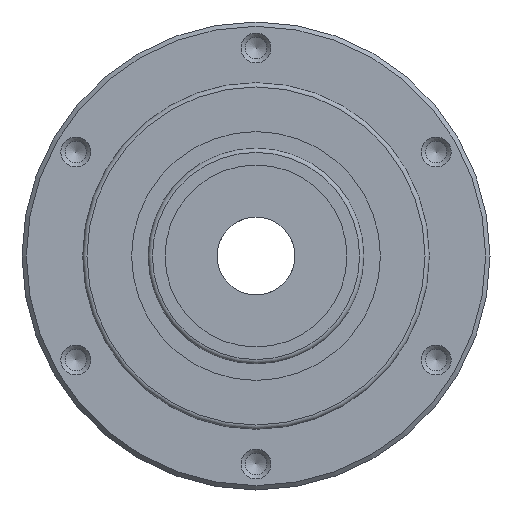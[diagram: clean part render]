
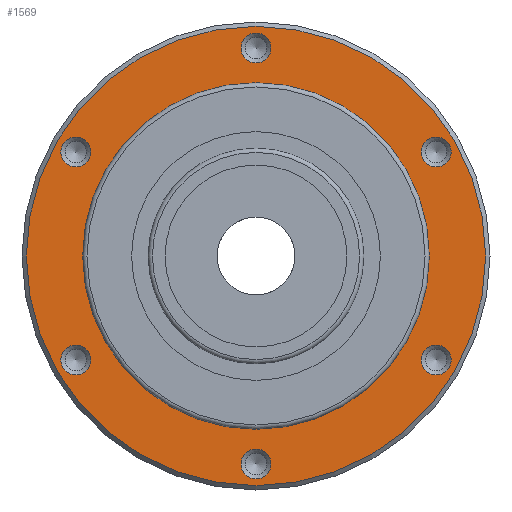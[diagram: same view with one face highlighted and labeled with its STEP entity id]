
A CAD part, left-side view. The second image highlights one B-rep face of the part: STEP entity #1569.
In plain terms, the highlighted planar face has unit normal (-1, 0, 0).
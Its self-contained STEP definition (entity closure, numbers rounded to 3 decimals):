
#108=PLANE('',#1687);
#166=CIRCLE('',#1686,40.);
#167=CIRCLE('',#1688,3.459);
#168=CIRCLE('',#1689,3.459);
#169=CIRCLE('',#1690,3.459);
#170=CIRCLE('',#1691,3.459);
#171=CIRCLE('',#1692,3.459);
#172=CIRCLE('',#1693,3.459);
#173=CIRCLE('',#1694,53.);
#270=ORIENTED_EDGE('',*,*,#482,.T.);
#271=ORIENTED_EDGE('',*,*,#483,.T.);
#272=ORIENTED_EDGE('',*,*,#484,.T.);
#273=ORIENTED_EDGE('',*,*,#485,.T.);
#274=ORIENTED_EDGE('',*,*,#486,.T.);
#275=ORIENTED_EDGE('',*,*,#487,.T.);
#276=ORIENTED_EDGE('',*,*,#488,.T.);
#277=ORIENTED_EDGE('',*,*,#481,.F.);
#481=EDGE_CURVE('',#587,#587,#166,.T.);
#482=EDGE_CURVE('',#588,#588,#167,.T.);
#483=EDGE_CURVE('',#589,#589,#168,.T.);
#484=EDGE_CURVE('',#590,#590,#169,.T.);
#485=EDGE_CURVE('',#591,#591,#170,.T.);
#486=EDGE_CURVE('',#592,#592,#171,.T.);
#487=EDGE_CURVE('',#593,#593,#172,.T.);
#488=EDGE_CURVE('',#594,#594,#173,.T.);
#587=VERTEX_POINT('',#2316);
#588=VERTEX_POINT('',#2319);
#589=VERTEX_POINT('',#2321);
#590=VERTEX_POINT('',#2323);
#591=VERTEX_POINT('',#2325);
#592=VERTEX_POINT('',#2327);
#593=VERTEX_POINT('',#2329);
#594=VERTEX_POINT('',#2331);
#695=EDGE_LOOP('',(#270));
#696=EDGE_LOOP('',(#271));
#697=EDGE_LOOP('',(#272));
#698=EDGE_LOOP('',(#273));
#699=EDGE_LOOP('',(#274));
#700=EDGE_LOOP('',(#275));
#701=EDGE_LOOP('',(#276));
#702=EDGE_LOOP('',(#277));
#839=FACE_BOUND('',#695,.T.);
#840=FACE_BOUND('',#696,.T.);
#841=FACE_BOUND('',#697,.T.);
#842=FACE_BOUND('',#698,.T.);
#843=FACE_BOUND('',#699,.T.);
#844=FACE_BOUND('',#700,.T.);
#845=FACE_BOUND('',#701,.T.);
#846=FACE_BOUND('',#702,.T.);
#1569=ADVANCED_FACE('',(#839,#840,#841,#842,#843,#844,#845,#846),#108,.T.);
#1686=AXIS2_PLACEMENT_3D('',#2315,#1893,#1894);
#1687=AXIS2_PLACEMENT_3D('',#2317,#1895,#1896);
#1688=AXIS2_PLACEMENT_3D('',#2318,#1897,#1898);
#1689=AXIS2_PLACEMENT_3D('',#2320,#1899,#1900);
#1690=AXIS2_PLACEMENT_3D('',#2322,#1901,#1902);
#1691=AXIS2_PLACEMENT_3D('',#2324,#1903,#1904);
#1692=AXIS2_PLACEMENT_3D('',#2326,#1905,#1906);
#1693=AXIS2_PLACEMENT_3D('',#2328,#1907,#1908);
#1694=AXIS2_PLACEMENT_3D('',#2330,#1909,#1910);
#1893=DIRECTION('',(-1.,0.,0.));
#1894=DIRECTION('',(0.,0.,1.));
#1895=DIRECTION('',(-1.,0.,0.));
#1896=DIRECTION('',(0.,0.,1.));
#1897=DIRECTION('',(1.,0.,0.));
#1898=DIRECTION('',(0.,-0.5,0.866));
#1899=DIRECTION('',(1.,0.,0.));
#1900=DIRECTION('',(0.,0.5,0.866));
#1901=DIRECTION('',(1.,0.,0.));
#1902=DIRECTION('',(0.,1.,0.));
#1903=DIRECTION('',(1.,0.,0.));
#1904=DIRECTION('',(0.,0.5,-0.866));
#1905=DIRECTION('',(1.,0.,0.));
#1906=DIRECTION('',(0.,-0.5,-0.866));
#1907=DIRECTION('',(1.,0.,0.));
#1908=DIRECTION('',(0.,-1.,0.));
#1909=DIRECTION('',(-1.,0.,0.));
#1910=DIRECTION('',(0.,0.,1.));
#2315=CARTESIAN_POINT('',(12.167,0.,0.));
#2316=CARTESIAN_POINT('',(12.167,0.,40.));
#2317=CARTESIAN_POINT('',(12.167,0.,40.));
#2318=CARTESIAN_POINT('',(12.167,41.569,24.));
#2319=CARTESIAN_POINT('',(12.167,39.84,26.995));
#2320=CARTESIAN_POINT('',(12.167,41.569,-24.));
#2321=CARTESIAN_POINT('',(12.167,43.298,-21.005));
#2322=CARTESIAN_POINT('',(12.167,0.,-48.));
#2323=CARTESIAN_POINT('',(12.167,3.459,-48.));
#2324=CARTESIAN_POINT('',(12.167,-41.569,-24.));
#2325=CARTESIAN_POINT('',(12.167,-39.84,-26.995));
#2326=CARTESIAN_POINT('',(12.167,-41.569,24.));
#2327=CARTESIAN_POINT('',(12.167,-43.298,21.005));
#2328=CARTESIAN_POINT('',(12.167,0.,48.));
#2329=CARTESIAN_POINT('',(12.167,-3.459,48.));
#2330=CARTESIAN_POINT('',(12.167,0.,0.));
#2331=CARTESIAN_POINT('',(12.167,0.,53.));
